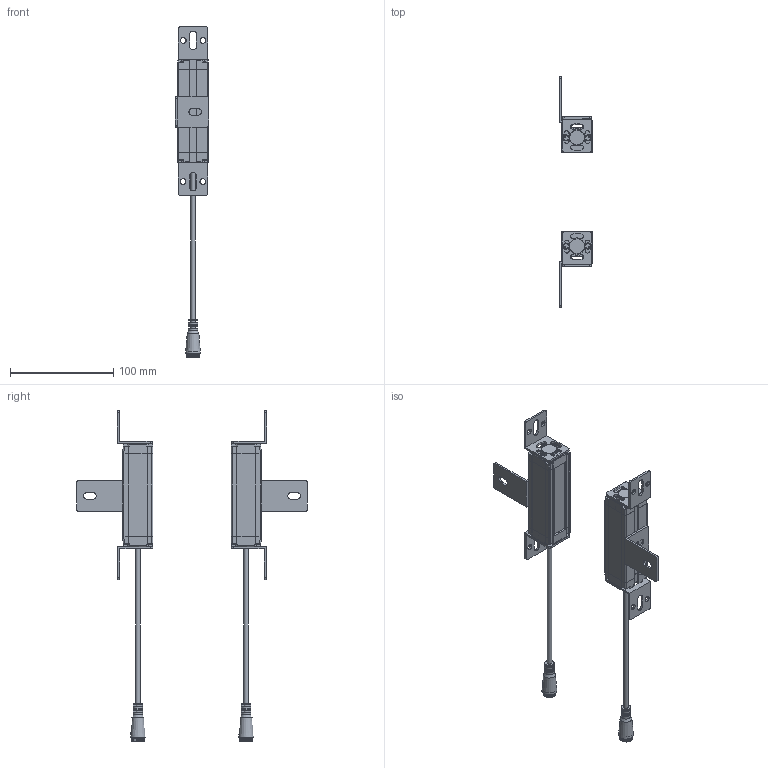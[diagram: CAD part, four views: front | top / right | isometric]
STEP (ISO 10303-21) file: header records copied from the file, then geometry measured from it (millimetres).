
FILE_DESCRIPTION(/* description */ (''),/* implementation_level */ '2;1');
FILE_NAME(/* name */ '0810（29x30）_stp.stp',/* time_stamp */ '2023-05-04T18:18:18+08:00',/* author */ (''),/* organization */ (''),/* preprocessor_version */ 'ST-DEVELOPER v16.7',/* originating_system */ 'SIEMENS PLM Software NX 12.0',/* authorisation */ '');
FILE_SCHEMA (('AUTOMOTIVE_DESIGN { 1 0 10303 214 3 1 1 1 }'));
Products named in the file (1): 1010（29x30）_stp
Bounding box: 32.03 x 223.99 x 321 mm (x, y, z)
Volume: 94569.8 mm3; surface area: 101898.2 mm2
Topology: 32 solids, 32 shells, 1570 faces, 4159 edges, 2699 vertices
Faces by surface type: plane 726, cylinder 632, bspline 88, sphere 36, cone 36, torus 32, extrusion 20
Full cylindrical faces by diameter (mm): 1.533 x6, 4.4 x4, 9 x2, 12.5 x2
Entity records: 55141 total; most frequent: CARTESIAN_POINT 15844, DIRECTION 8110, ORIENTED_EDGE 8108, EDGE_CURVE 4054, AXIS2_PLACEMENT_3D 2846, VERTEX_POINT 2624, VECTOR 2418, LINE 2398
